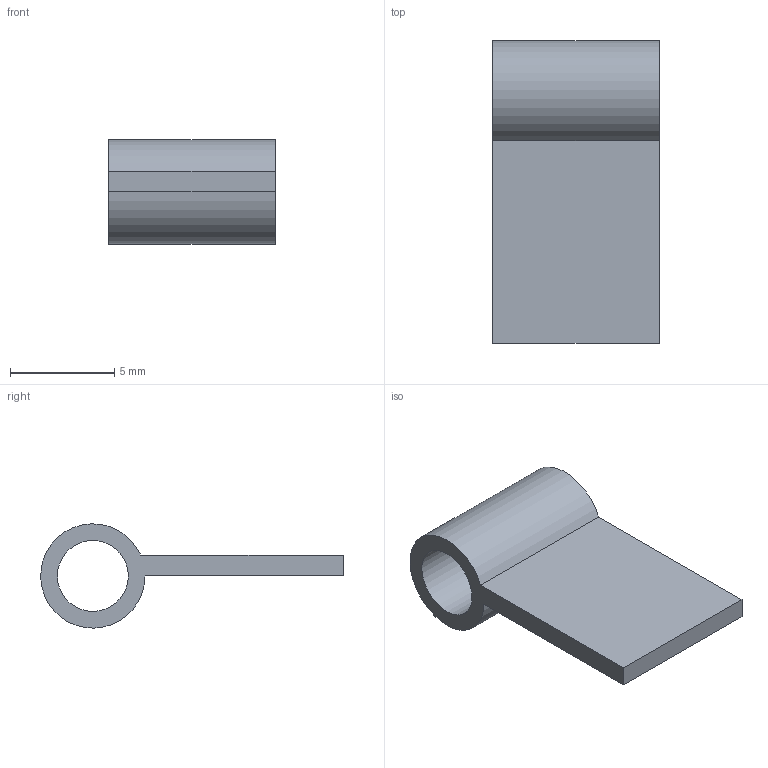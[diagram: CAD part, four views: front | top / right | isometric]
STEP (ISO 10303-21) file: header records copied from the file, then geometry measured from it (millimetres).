
FILE_DESCRIPTION(('Open CASCADE Model'),'2;1');
FILE_NAME('Open CASCADE Shape Model','2026-11-25T12:52:00',('Author'),( 'Open CASCADE'),'Open CASCADE STEP processor 8.0','Open CASCADE 8.0' ,'Unknown');
FILE_SCHEMA(('AP242_MANAGED_MODEL_BASED_3D_ENGINEERING_MIM_LF {1 0 10303 442 1 1 4 }' ));
Length unit declared in the file: millimetre
Products named in the file (1): Fixed leaf
Bounding box: 8 x 14.5 x 5 mm (x, y, z)
Volume: 161 mm3; surface area: 404.8 mm2
Topology: 1 solids, 1 shells, 7 faces, 15 edges, 10 vertices
Faces by surface type: plane 5, cylinder 2
Full cylindrical faces by diameter (mm): 3.4 x1
Entity records: 410 total; most frequent: CARTESIAN_POINT 73, DIRECTION 60, LINE 33, VECTOR 33, ORIENTED_EDGE 30, PCURVE 30, DEFINITIONAL_REPRESENTATION 30, EDGE_CURVE 15
